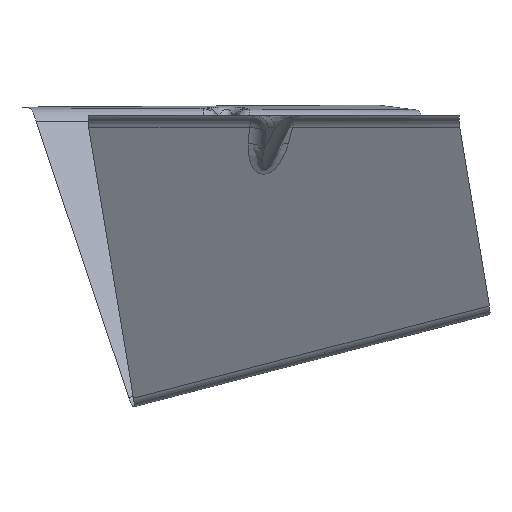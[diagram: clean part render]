
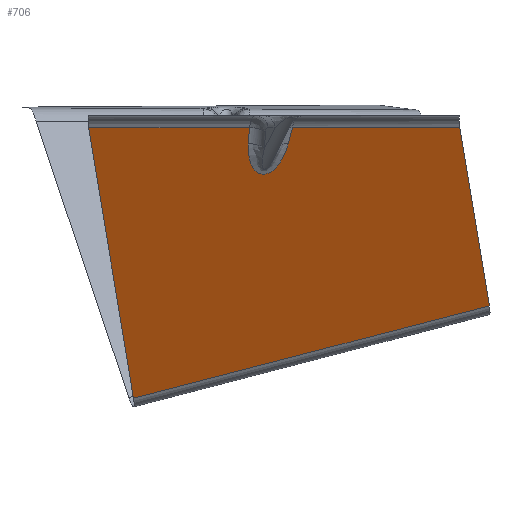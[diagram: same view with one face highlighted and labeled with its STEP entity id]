
A CAD part, left-side view. The second image highlights one B-rep face of the part: STEP entity #706.
In plain terms, the highlighted planar face has unit normal (-0.83, -0.249, -0.5).
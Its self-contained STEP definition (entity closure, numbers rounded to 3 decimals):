
#251=CARTESIAN_POINT('Vertex',(-81.067,6.603,-1.65)) ;
#274=CARTESIAN_POINT('Line Origine',(-65.211,8.465,-28.883)) ;
#278=CARTESIAN_POINT('Vertex',(-78.534,6.9,-6.)) ;
#591=CARTESIAN_POINT('Control Point',(-75.308,-3.853,-6.)) ;
#592=CARTESIAN_POINT('Control Point',(-75.113,-3.755,-6.374)) ;
#593=CARTESIAN_POINT('Control Point',(-74.92,-3.646,-6.747)) ;
#594=CARTESIAN_POINT('Control Point',(-74.731,-3.527,-7.12)) ;
#595=CARTESIAN_POINT('Control Point',(-74.366,-3.271,-7.853)) ;
#596=CARTESIAN_POINT('Control Point',(-74.017,-2.971,-8.582)) ;
#597=CARTESIAN_POINT('Control Point',(-73.849,-2.812,-8.939)) ;
#598=CARTESIAN_POINT('Control Point',(-73.539,-2.486,-9.616)) ;
#599=CARTESIAN_POINT('Control Point',(-73.249,-2.111,-10.283)) ;
#600=CARTESIAN_POINT('Control Point',(-73.117,-1.921,-10.598)) ;
#601=CARTESIAN_POINT('Control Point',(-72.882,-1.544,-11.175)) ;
#602=CARTESIAN_POINT('Control Point',(-72.672,-1.116,-11.737)) ;
#603=CARTESIAN_POINT('Control Point',(-72.581,-0.907,-11.991)) ;
#604=CARTESIAN_POINT('Control Point',(-72.38,-0.368,-12.593)) ;
#605=CARTESIAN_POINT('Control Point',(-72.233,0.265,-13.152)) ;
#606=CARTESIAN_POINT('Control Point',(-72.171,0.681,-13.463)) ;
#607=CARTESIAN_POINT('Control Point',(-72.137,1.333,-13.842)) ;
#608=CARTESIAN_POINT('Control Point',(-72.226,2.079,-14.067)) ;
#609=CARTESIAN_POINT('Control Point',(-72.262,2.296,-14.116)) ;
#610=CARTESIAN_POINT('Control Point',(-72.343,2.668,-14.165)) ;
#611=CARTESIAN_POINT('Control Point',(-72.456,3.035,-14.16)) ;
#612=CARTESIAN_POINT('Control Point',(-72.507,3.181,-14.149)) ;
#613=CARTESIAN_POINT('Control Point',(-72.613,3.455,-14.109)) ;
#614=CARTESIAN_POINT('Control Point',(-72.732,3.714,-14.041)) ;
#615=CARTESIAN_POINT('Control Point',(-72.791,3.833,-14.002)) ;
#616=CARTESIAN_POINT('Control Point',(-73.075,4.365,-13.795)) ;
#617=CARTESIAN_POINT('Control Point',(-73.391,4.799,-13.488)) ;
#618=CARTESIAN_POINT('Control Point',(-73.642,5.087,-13.215)) ;
#619=CARTESIAN_POINT('Control Point',(-74.065,5.507,-12.721)) ;
#620=CARTESIAN_POINT('Control Point',(-74.484,5.833,-12.188)) ;
#621=CARTESIAN_POINT('Control Point',(-74.657,5.954,-11.963)) ;
#622=CARTESIAN_POINT('Control Point',(-75.047,6.204,-11.439)) ;
#623=CARTESIAN_POINT('Control Point',(-75.431,6.399,-10.9)) ;
#624=CARTESIAN_POINT('Control Point',(-75.644,6.494,-10.593)) ;
#625=CARTESIAN_POINT('Control Point',(-76.12,6.678,-9.896)) ;
#626=CARTESIAN_POINT('Control Point',(-76.584,6.802,-9.187)) ;
#627=CARTESIAN_POINT('Control Point',(-76.839,6.854,-8.79)) ;
#628=CARTESIAN_POINT('Control Point',(-77.339,6.928,-7.997)) ;
#629=CARTESIAN_POINT('Control Point',(-77.827,6.947,-7.197)) ;
#630=CARTESIAN_POINT('Control Point',(-78.066,6.943,-6.799)) ;
#631=CARTESIAN_POINT('Control Point',(-78.302,6.928,-6.4)) ;
#632=CARTESIAN_POINT('Control Point',(-78.534,6.9,-6.)) ;
#633=CARTESIAN_POINT('Vertex',(-75.308,-3.853,-6.)) ;
#651=CARTESIAN_POINT('Axis2P3D Location',(-36.384,-10.915,-67.061)) ;
#656=CARTESIAN_POINT('Line Origine',(-76.448,-4.426,-3.825)) ;
#660=CARTESIAN_POINT('Vertex',(-77.587,-4.999,-1.65)) ;
#663=CARTESIAN_POINT('Line Origine',(-87.567,28.27,-1.65)) ;
#667=CARTESIAN_POINT('Vertex',(-94.067,49.936,-1.65)) ;
#670=CARTESIAN_POINT('Line Origine',(-70.296,43.893,-38.078)) ;
#674=CARTESIAN_POINT('Vertex',(-46.525,37.849,-74.507)) ;
#677=CARTESIAN_POINT('Line Origine',(-39.645,-10.086,-62.064)) ;
#681=CARTESIAN_POINT('Vertex',(-32.764,-58.022,-49.622)) ;
#684=CARTESIAN_POINT('Line Origine',(-48.416,-54.043,-25.636)) ;
#688=CARTESIAN_POINT('Vertex',(-64.067,-50.064,-1.65)) ;
#691=CARTESIAN_POINT('Line Origine',(-70.827,-27.531,-1.65)) ;
#275=DIRECTION('Vector Direction',(0.502,0.059,-0.863)) ;
#652=DIRECTION('Axis2P3D Direction',(0.83,0.249,0.5)) ;
#653=DIRECTION('Axis2P3D XDirection',(0.541,-0.138,-0.83)) ;
#657=DIRECTION('Vector Direction',(-0.452,-0.227,0.863)) ;
#664=DIRECTION('Vector Direction',(0.287,-0.958,0.)) ;
#671=DIRECTION('Vector Direction',(0.541,-0.138,-0.83)) ;
#678=DIRECTION('Vector Direction',(0.138,-0.959,0.249)) ;
#685=DIRECTION('Vector Direction',(-0.541,0.138,0.83)) ;
#692=DIRECTION('Vector Direction',(0.287,-0.958,0.)) ;
#654=AXIS2_PLACEMENT_3D('Plane Axis2P3D',#651,#652,#653) ;
#697=ORIENTED_EDGE('',*,*,#662,.T.) ;
#698=ORIENTED_EDGE('',*,*,#635,.T.) ;
#699=ORIENTED_EDGE('',*,*,#280,.T.) ;
#700=ORIENTED_EDGE('',*,*,#669,.F.) ;
#701=ORIENTED_EDGE('',*,*,#676,.T.) ;
#702=ORIENTED_EDGE('',*,*,#683,.T.) ;
#703=ORIENTED_EDGE('',*,*,#690,.T.) ;
#704=ORIENTED_EDGE('',*,*,#695,.F.) ;
#276=VECTOR('Line Direction',#275,1.) ;
#658=VECTOR('Line Direction',#657,1.) ;
#665=VECTOR('Line Direction',#664,1.) ;
#672=VECTOR('Line Direction',#671,1.) ;
#679=VECTOR('Line Direction',#678,1.) ;
#686=VECTOR('Line Direction',#685,1.) ;
#693=VECTOR('Line Direction',#692,1.) ;
#706=ADVANCED_FACE('Extract.1',(#705),#655,.F.) ;
#590=B_SPLINE_CURVE_WITH_KNOTS('',5,(#591,#592,#593,#594,#595,#596,#597,#598,#599,#600,#601,#602,#603,#604,#605,#606,#607,#608,#609,#610,#611,#612,#613,#614,#615,#616,#617,#618,#619,#620,#621,#622,#623,#624,#625,#626,#627,#628,#629,#630,#631,#632),.UNSPECIFIED.,.F.,.U.,(6,3,3,3,3,3,3,3,3,3,3,3,3,6),(20.133,23.026,25.83,28.37,30.536,33.598,34.805,35.627,36.382,39.135,41.08,43.576,46.698,49.79),.UNSPECIFIED.) ;
#280=EDGE_CURVE('',#279,#252,#277,.F.) ;
#635=EDGE_CURVE('',#634,#279,#590,.T.) ;
#662=EDGE_CURVE('',#661,#634,#659,.F.) ;
#669=EDGE_CURVE('',#668,#252,#666,.T.) ;
#676=EDGE_CURVE('',#668,#675,#673,.T.) ;
#683=EDGE_CURVE('',#675,#682,#680,.T.) ;
#690=EDGE_CURVE('',#682,#689,#687,.T.) ;
#695=EDGE_CURVE('',#661,#689,#694,.T.) ;
#696=EDGE_LOOP('',(#697,#698,#699,#700,#701,#702,#703,#704)) ;
#705=FACE_OUTER_BOUND('',#696,.T.) ;
#277=LINE('Line',#274,#276) ;
#659=LINE('Line',#656,#658) ;
#666=LINE('Line',#663,#665) ;
#673=LINE('Line',#670,#672) ;
#680=LINE('Line',#677,#679) ;
#687=LINE('Line',#684,#686) ;
#694=LINE('Line',#691,#693) ;
#655=PLANE('',#654) ;
#252=VERTEX_POINT('',#251) ;
#279=VERTEX_POINT('',#278) ;
#634=VERTEX_POINT('',#633) ;
#661=VERTEX_POINT('',#660) ;
#668=VERTEX_POINT('',#667) ;
#675=VERTEX_POINT('',#674) ;
#682=VERTEX_POINT('',#681) ;
#689=VERTEX_POINT('',#688) ;
